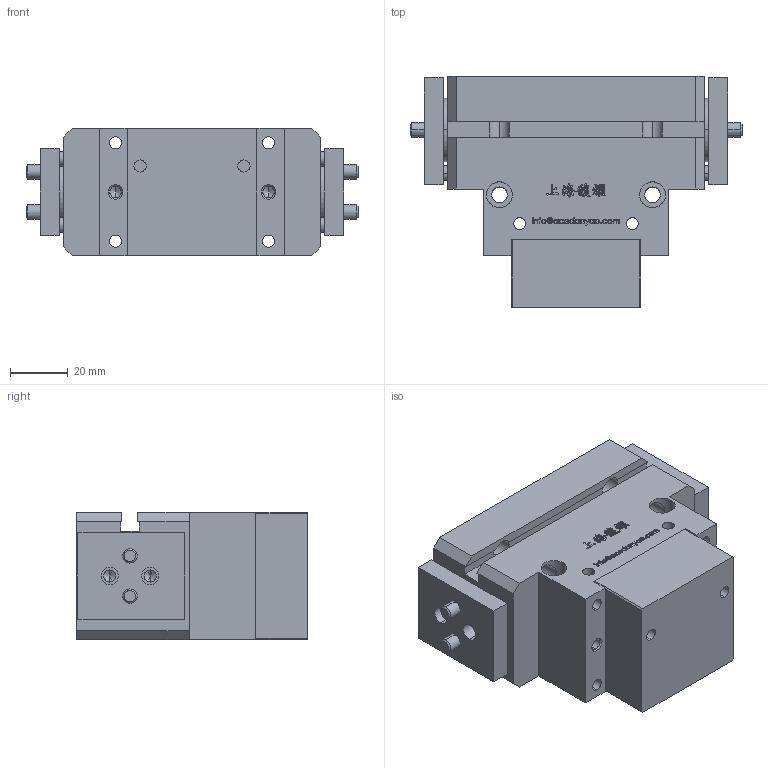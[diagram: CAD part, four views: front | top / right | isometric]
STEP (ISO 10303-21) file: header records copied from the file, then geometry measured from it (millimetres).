
FILE_DESCRIPTION (( 'STEP AP203' ), '1' );
FILE_NAME ('SRO-80-MA&MC-原始檔-組合-W106.04.20.STEP', '2017-04-20T08:23:00', ( 'DanyaoCAD' ), ( '' ), 'SwSTEP 2.0', 'SolidWorks 2016', '' );
FILE_SCHEMA (( 'CONFIG_CONTROL_DESIGN' ));
Length unit declared in the file: millimetre
Products named in the file (4): Griffa; Fondello; Corpo; SRO-80-MA&MC-原始檔-組合-W106.04.20
Assembly tree (4 placements, depth 2):
  SRO-80-MA&MC-原始檔-組合-W106.04.20
    Griffa  x2
    Fondello
    Corpo
Bounding box: 115 x 80 x 44 mm (x, y, z)
Volume: 245383.6 mm3; surface area: 60677.1 mm2
Topology: 4 solids, 4 shells, 1000 faces, 2770 edges, 1828 vertices
Faces by surface type: bspline 640, plane 234, cylinder 94, cone 32
Entity records: 47968 total; most frequent: CARTESIAN_POINT 27134, ORIENTED_EDGE 5352, EDGE_CURVE 2676, DIRECTION 2184, VERTEX_POINT 1778, B_SPLINE_CURVE_WITH_KNOTS 1312, VECTOR 1200, LINE 1200
